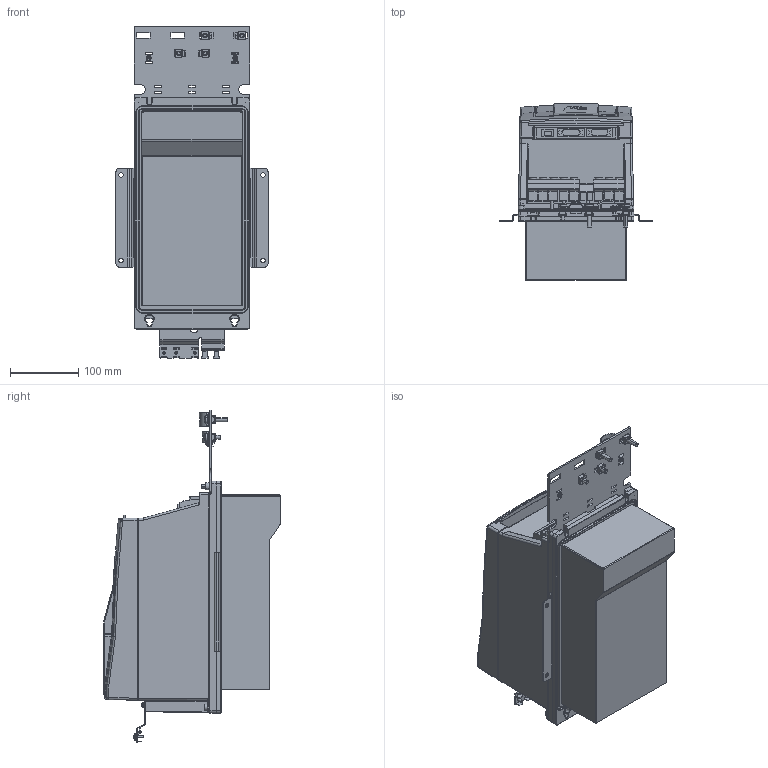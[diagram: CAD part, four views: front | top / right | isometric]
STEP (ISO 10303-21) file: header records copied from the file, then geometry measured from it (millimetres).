
FILE_DESCRIPTION (( 'STEP AP214' ), '1' );
FILE_NAME ('10051471_000.STEP', '2021-01-18T09:42:28', ( '' ), ( '' ), 'SwSTEP 2.0', 'SolidWorks 2019', '' );
FILE_SCHEMA (( 'AUTOMOTIVE_DESIGN' ));
Length unit declared in the file: millimetre
Products named in the file (15): 10001531_000; 10059764_000_Blindabdeckung (Kundenmodell); 10063309_000; 10047094_000_Mit K„figmutterSM-FLAT-PATTERN; 10035735_000_Kundenmodell; 10051471_000; 10051470_000_Leistungsteil TR5 (Kundenmodell); 10060358_000; 10060393_000; 10063222_000; 10040482_000_Kundenmodell; 10059765_000; 10061030_000_Kundenmodell; 10058413_000; 10047114_000_Kundenmodell
Assembly tree (15 placements, depth 4):
  10051471_000
    10051470_000_Leistungsteil TR5 (Kundenmodell)
      10060358_000
    10040482_000_Kundenmodell
      10060393_000
    10035735_000_Kundenmodell
      10059764_000_Blindabdeckung (Kundenmodell)
        10059765_000
      10058413_000
    10047114_000_Kundenmodell
      10047094_000_Mit K„figmutterSM-FLAT-PATTERN
      10063222_000
    10061030_000_Kundenmodell
      10063309_000
    10001531_000  x2
Bounding box: 223 x 258.4 x 486.8 mm (x, y, z)
Volume: 10653888.6 mm3; surface area: 739203.5 mm2
Topology: 21 solids, 28 shells, 3506 faces, 9234 edges, 5859 vertices
Faces by surface type: plane 1671, cylinder 1177, bspline 341, torus 130, cone 121, sphere 66
Entity records: 120917 total; most frequent: CARTESIAN_POINT 32502, ORIENTED_EDGE 18160, DIRECTION 16779, EDGE_CURVE 9080, AXIS2_PLACEMENT_3D 5805, VERTEX_POINT 5801, VECTOR 5169, LINE 5169
